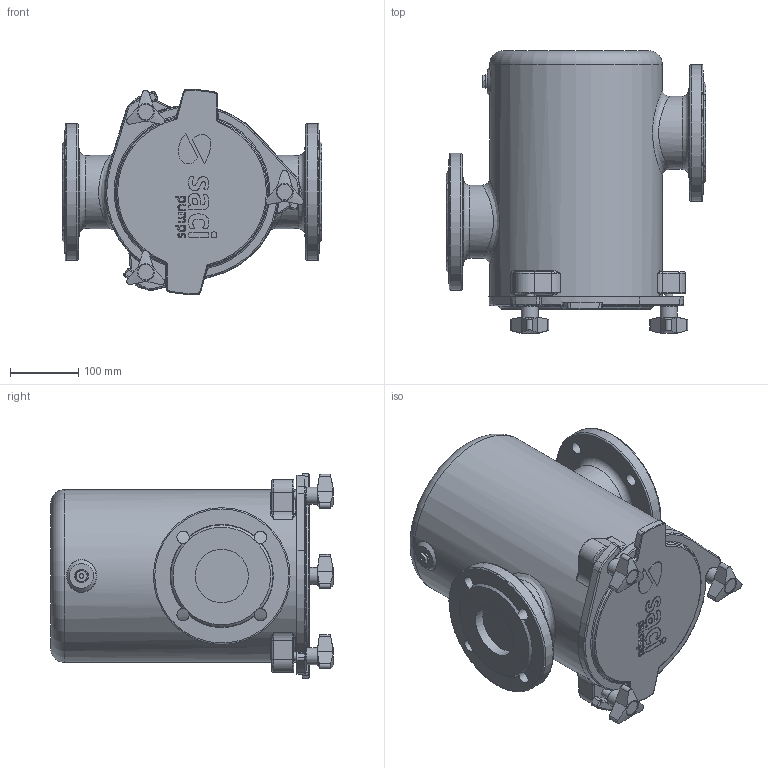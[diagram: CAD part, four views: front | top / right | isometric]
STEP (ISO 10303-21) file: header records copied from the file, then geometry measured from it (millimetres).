
FILE_DESCRIPTION(/* description */ ('Unknown'),/* implementation_level */ '2;1');
FILE_NAME(/* name */ 'PREFILTRO F 80-80 COMPLETO (4 AG)',/* time_stamp */ '2020-11-30T09:20:20+01:00',/* author */ ('Unknown'),/* organization */ ('Unknown'),/* preprocessor_version */ 'ST-DEVELOPER v16.7',/* originating_system */ 'Solid Edge',/* authorisation */ 'Unknown');
FILE_SCHEMA (('AUTOMOTIVE_DESIGN {1 0 10303 214 3 1 1}'));
Length unit declared in the file: millimetre
Products named in the file (1): PREFILTRO F  80-80 COMPLETO (4 AG)
Bounding box: 380 x 413 x 299.77 mm (x, y, z)
Volume: 21242102.5 mm3; surface area: 622287 mm2
Topology: 2 solids, 2 shells, 480 faces, 1199 edges, 739 vertices
Faces by surface type: bspline 134, plane 117, cylinder 110, torus 61, cone 58
Full cylindrical faces by diameter (mm): 10.106 x6, 12 x3, 18 x8, 20 x1, 22.5 x3, 25 x3, 78 x2, 107 x2, 200 x2, 253 x1
Entity records: 24116 total; most frequent: CARTESIAN_POINT 10937, ORIENTED_EDGE 2160, DIRECTION 1689, EDGE_CURVE 1080, AXIS2_PLACEMENT_3D 709, VERTEX_POINT 702, FACE_BOUND 600, EDGE_LOOP 599
